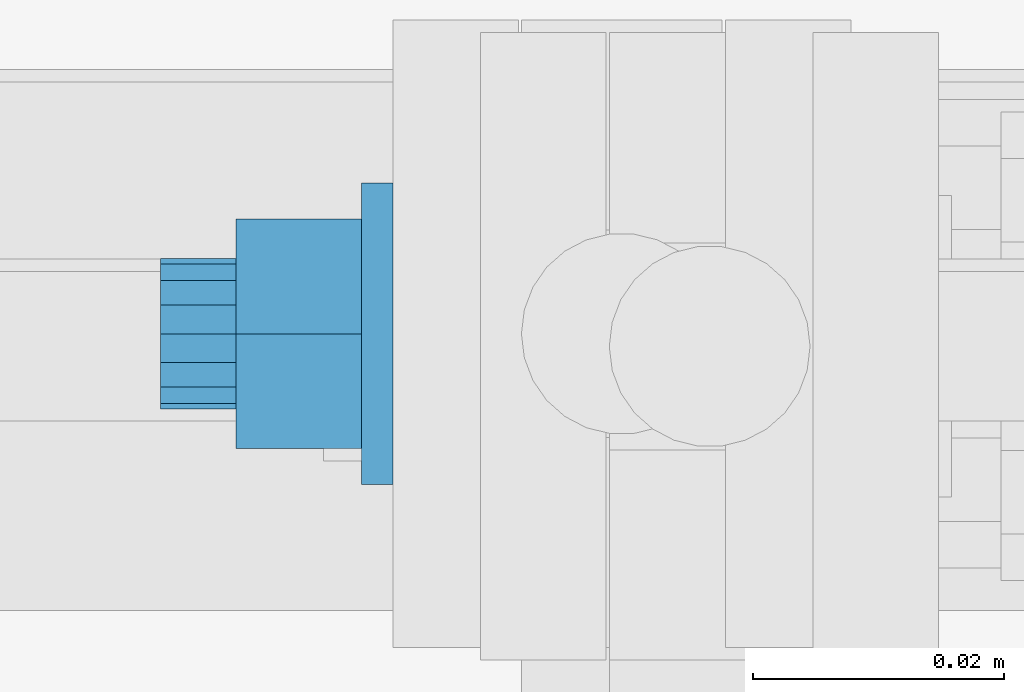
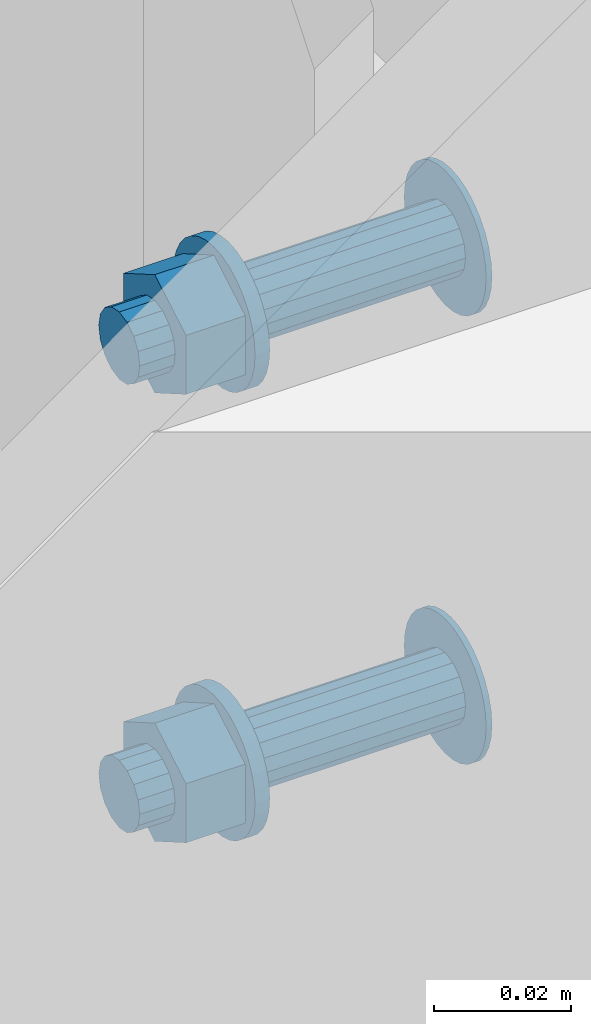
# One storey, part 49 of 98: 1 mechanical fastener.
"""IFC2X3 building model written with IfcOpenShell, lengths in millimetres."""

from ifc_helpers import new_model, entity, si_unit, converted_unit, origin_with_axes, place, context, project, spatial, faceted_brep, element, save


model = new_model("IFC2X3")

# Units and contexts
model_context = context("Model", 3, precision=1e-09, world=origin_with_axes())
ifc_project = project(units=[si_unit("LENGTHUNIT", "METRE", prefix="MILLI"), si_unit("AREAUNIT", "SQUARE_METRE"), si_unit("VOLUMEUNIT", "CUBIC_METRE"), converted_unit("PLANEANGLEUNIT", "DEGREE", entity("IfcPlaneAngleMeasure", 0.01745329), si_unit("PLANEANGLEUNIT", "RADIAN"), dimensions=[0, 0, 0, 0, 0, 0, 0])], contexts=[model_context])

# Site, building, storey
site_placement = place(None, origin_with_axes())
site = spatial("IfcSite", under=ifc_project, at=site_placement, Name="Maybachstra?e 2, 71563 Affalterbach", CompositionType="ELEMENT")
building_placement = place(site_placement, origin_with_axes())
building = spatial("IfcBuilding", under=site, at=building_placement, Name="Struktur 1", CompositionType="ELEMENT")
storey_placement = place(building_placement, origin_with_axes())
storey = spatial("IfcBuildingStorey", under=building, at=storey_placement, Name="Default Storey", CompositionType="ELEMENT", Elevation=0.0)

# Mechanical fastener
mechanical_fastener_placement = place(None, origin_with_axes())
element("IfcMechanicalFastener", 1, at=mechanical_fastener_placement, inside=storey, ObjectType="-", NominalDiameter=12.0, NominalLength=55.0, context=model_context, shape_type="Brep", body=[
    faceted_brep([(12156.279157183, -581.0, 2795.0), (12155.279157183, -581.0, 2795.0), (12155.279157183, -580.769423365, 2792.658916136), (12156.279157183, -580.769423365, 2792.658916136), (12155.279157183, -580.08655439, 2790.407798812), (12156.279157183, -580.08655439, 2790.407798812), (12155.279157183, -578.977635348, 2788.333157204), (12156.279157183, -578.977635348, 2788.333157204), (12155.279157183, -577.485281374, 2786.514718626), (12156.279157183, -577.485281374, 2786.514718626), (12155.279157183, -575.666842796, 2785.022364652), (12156.279157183, -575.666842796, 2785.022364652), (12155.279157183, -573.592201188, 2783.91344561), (12156.279157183, -573.592201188, 2783.91344561), (12155.279157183, -571.341083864, 2783.230576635), (12156.279157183, -571.341083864, 2783.230576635), (12155.279157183, -569.0, 2783.0), (12156.279157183, -569.0, 2783.0), (12155.279157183, -566.658916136, 2783.230576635), (12156.279157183, -566.658916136, 2783.230576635), (12155.279157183, -564.407798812, 2783.91344561), (12156.279157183, -564.407798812, 2783.91344561), (12155.279157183, -562.333157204, 2785.022364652), (12156.279157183, -562.333157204, 2785.022364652), (12155.279157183, -560.514718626, 2786.514718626), (12156.279157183, -560.514718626, 2786.514718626), (12155.279157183, -559.022364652, 2788.333157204), (12156.279157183, -559.022364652, 2788.333157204), (12155.279157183, -557.91344561, 2790.407798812), (12156.279157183, -557.91344561, 2790.407798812), (12155.279157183, -557.230576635, 2792.658916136), (12156.279157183, -557.230576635, 2792.658916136), (12155.279157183, -557.0, 2795.0), (12156.279157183, -557.0, 2795.0), (12155.279157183, -557.230576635, 2797.341083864), (12156.279157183, -557.230576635, 2797.341083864), (12155.279157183, -557.91344561, 2799.592201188), (12156.279157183, -557.91344561, 2799.592201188), (12155.279157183, -559.022364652, 2801.666842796), (12156.279157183, -559.022364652, 2801.666842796), (12155.279157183, -560.514718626, 2803.485281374), (12156.279157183, -560.514718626, 2803.485281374), (12155.279157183, -562.333157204, 2804.977635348), (12156.279157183, -562.333157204, 2804.977635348), (12155.279157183, -564.407798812, 2806.08655439), (12156.279157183, -564.407798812, 2806.08655439), (12155.279157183, -566.658916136, 2806.769423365), (12156.279157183, -566.658916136, 2806.769423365), (12155.279157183, -569.0, 2807.0), (12156.279157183, -569.0, 2807.0), (12155.279157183, -571.341083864, 2806.769423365), (12156.279157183, -571.341083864, 2806.769423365), (12155.279157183, -573.592201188, 2806.08655439), (12156.279157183, -573.592201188, 2806.08655439), (12155.279157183, -575.666842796, 2804.977635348), (12156.279157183, -575.666842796, 2804.977635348), (12155.279157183, -577.485281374, 2803.485281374), (12156.279157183, -577.485281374, 2803.485281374), (12155.279157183, -578.977635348, 2801.666842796), (12156.279157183, -578.977635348, 2801.666842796), (12155.279157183, -580.08655439, 2799.592201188), (12156.279157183, -580.08655439, 2799.592201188), (12155.279157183, -580.769423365, 2797.341083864), (12156.279157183, -580.769423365, 2797.341083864)], [[[0, 1, 2, 3]], [[3, 2, 4, 5]], [[5, 4, 6, 7]], [[7, 6, 8, 9]], [[9, 8, 10, 11]], [[11, 10, 12, 13]], [[13, 12, 14, 15]], [[15, 14, 16, 17]], [[17, 16, 18, 19]], [[19, 18, 20, 21]], [[21, 20, 22, 23]], [[23, 22, 24, 25]], [[25, 24, 26, 27]], [[27, 26, 28, 29]], [[29, 28, 30, 31]], [[31, 30, 32, 33]], [[33, 32, 34, 35]], [[35, 34, 36, 37]], [[37, 36, 38, 39]], [[39, 38, 40, 41]], [[41, 40, 42, 43]], [[43, 42, 44, 45]], [[45, 44, 46, 47]], [[47, 46, 48, 49]], [[49, 48, 50, 51]], [[51, 50, 52, 53]], [[53, 52, 54, 55]], [[55, 54, 56, 57]], [[57, 56, 58, 59]], [[59, 58, 60, 61]], [[61, 60, 62, 63]], [[63, 62, 1, 0]], [[0, 3, 5, 7, 9, 11, 13, 15, 17, 19, 21, 23, 25, 27, 29, 31, 33, 35, 37, 39, 41, 43, 45, 47, 49, 51, 53, 55, 57, 59, 61, 63]], [[1, 62, 60, 58, 56, 54, 52, 50, 48, 46, 44, 42, 40, 38, 36, 34, 32, 30, 28, 26, 24, 22, 20, 18, 16, 14, 12, 10, 8, 6, 4, 2]]]),
    faceted_brep([(12156.279157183, -581.0, 2715.0), (12155.279157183, -581.0, 2715.0), (12155.279157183, -580.769423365, 2712.658916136), (12156.279157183, -580.769423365, 2712.658916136), (12155.279157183, -580.08655439, 2710.407798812), (12156.279157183, -580.08655439, 2710.407798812), (12155.279157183, -578.977635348, 2708.333157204), (12156.279157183, -578.977635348, 2708.333157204), (12155.279157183, -577.485281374, 2706.514718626), (12156.279157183, -577.485281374, 2706.514718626), (12155.279157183, -575.666842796, 2705.022364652), (12156.279157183, -575.666842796, 2705.022364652), (12155.279157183, -573.592201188, 2703.91344561), (12156.279157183, -573.592201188, 2703.91344561), (12155.279157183, -571.341083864, 2703.230576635), (12156.279157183, -571.341083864, 2703.230576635), (12155.279157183, -569.0, 2703.0), (12156.279157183, -569.0, 2703.0), (12155.279157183, -566.658916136, 2703.230576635), (12156.279157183, -566.658916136, 2703.230576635), (12155.279157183, -564.407798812, 2703.91344561), (12156.279157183, -564.407798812, 2703.91344561), (12155.279157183, -562.333157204, 2705.022364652), (12156.279157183, -562.333157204, 2705.022364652), (12155.279157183, -560.514718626, 2706.514718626), (12156.279157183, -560.514718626, 2706.514718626), (12155.279157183, -559.022364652, 2708.333157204), (12156.279157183, -559.022364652, 2708.333157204), (12155.279157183, -557.91344561, 2710.407798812), (12156.279157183, -557.91344561, 2710.407798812), (12155.279157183, -557.230576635, 2712.658916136), (12156.279157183, -557.230576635, 2712.658916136), (12155.279157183, -557.0, 2715.0), (12156.279157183, -557.0, 2715.0), (12155.279157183, -557.230576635, 2717.341083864), (12156.279157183, -557.230576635, 2717.341083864), (12155.279157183, -557.91344561, 2719.592201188), (12156.279157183, -557.91344561, 2719.592201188), (12155.279157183, -559.022364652, 2721.666842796), (12156.279157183, -559.022364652, 2721.666842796), (12155.279157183, -560.514718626, 2723.485281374), (12156.279157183, -560.514718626, 2723.485281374), (12155.279157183, -562.333157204, 2724.977635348), (12156.279157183, -562.333157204, 2724.977635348), (12155.279157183, -564.407798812, 2726.08655439), (12156.279157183, -564.407798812, 2726.08655439), (12155.279157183, -566.658916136, 2726.769423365), (12156.279157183, -566.658916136, 2726.769423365), (12155.279157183, -569.0, 2727.0), (12156.279157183, -569.0, 2727.0), (12155.279157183, -571.341083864, 2726.769423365), (12156.279157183, -571.341083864, 2726.769423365), (12155.279157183, -573.592201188, 2726.08655439), (12156.279157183, -573.592201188, 2726.08655439), (12155.279157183, -575.666842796, 2724.977635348), (12156.279157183, -575.666842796, 2724.977635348), (12155.279157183, -577.485281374, 2723.485281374), (12156.279157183, -577.485281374, 2723.485281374), (12155.279157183, -578.977635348, 2721.666842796), (12156.279157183, -578.977635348, 2721.666842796), (12155.279157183, -580.08655439, 2719.592201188), (12156.279157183, -580.08655439, 2719.592201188), (12155.279157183, -580.769423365, 2717.341083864), (12156.279157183, -580.769423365, 2717.341083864)], [[[0, 1, 2, 3]], [[3, 2, 4, 5]], [[5, 4, 6, 7]], [[7, 6, 8, 9]], [[9, 8, 10, 11]], [[11, 10, 12, 13]], [[13, 12, 14, 15]], [[15, 14, 16, 17]], [[17, 16, 18, 19]], [[19, 18, 20, 21]], [[21, 20, 22, 23]], [[23, 22, 24, 25]], [[25, 24, 26, 27]], [[27, 26, 28, 29]], [[29, 28, 30, 31]], [[31, 30, 32, 33]], [[33, 32, 34, 35]], [[35, 34, 36, 37]], [[37, 36, 38, 39]], [[39, 38, 40, 41]], [[41, 40, 42, 43]], [[43, 42, 44, 45]], [[45, 44, 46, 47]], [[47, 46, 48, 49]], [[49, 48, 50, 51]], [[51, 50, 52, 53]], [[53, 52, 54, 55]], [[55, 54, 56, 57]], [[57, 56, 58, 59]], [[59, 58, 60, 61]], [[61, 60, 62, 63]], [[63, 62, 1, 0]], [[0, 3, 5, 7, 9, 11, 13, 15, 17, 19, 21, 23, 25, 27, 29, 31, 33, 35, 37, 39, 41, 43, 45, 47, 49, 51, 53, 55, 57, 59, 61, 63]], [[1, 62, 60, 58, 56, 54, 52, 50, 48, 46, 44, 42, 40, 38, 36, 34, 32, 30, 28, 26, 24, 22, 20, 18, 16, 14, 12, 10, 8, 6, 4, 2]]]),
    faceted_brep([(12155.279157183, -575.0, 2795.0), (12118.779157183, -575.0, 2795.0), (12118.779157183, -574.543277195, 2792.703899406), (12155.279157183, -574.543277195, 2792.703899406), (12118.779157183, -573.242640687, 2790.757359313), (12155.279157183, -573.242640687, 2790.757359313), (12118.779157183, -571.296100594, 2789.456722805), (12155.279157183, -571.296100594, 2789.456722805), (12118.779157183, -569.0, 2789.0), (12155.279157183, -569.0, 2789.0), (12118.779157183, -566.703899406, 2789.456722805), (12155.279157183, -566.703899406, 2789.456722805), (12118.779157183, -564.757359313, 2790.757359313), (12155.279157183, -564.757359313, 2790.757359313), (12118.779157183, -563.456722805, 2792.703899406), (12155.279157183, -563.456722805, 2792.703899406), (12118.779157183, -563.0, 2795.0), (12155.279157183, -563.0, 2795.0), (12118.779157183, -563.456722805, 2797.296100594), (12155.279157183, -563.456722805, 2797.296100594), (12118.779157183, -564.757359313, 2799.242640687), (12155.279157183, -564.757359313, 2799.242640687), (12118.779157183, -566.703899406, 2800.543277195), (12155.279157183, -566.703899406, 2800.543277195), (12118.779157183, -569.0, 2801.0), (12155.279157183, -569.0, 2801.0), (12118.779157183, -571.296100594, 2800.543277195), (12155.279157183, -571.296100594, 2800.543277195), (12118.779157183, -573.242640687, 2799.242640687), (12155.279157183, -573.242640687, 2799.242640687), (12118.779157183, -574.543277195, 2797.296100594), (12155.279157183, -574.543277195, 2797.296100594)], [[[0, 1, 2, 3]], [[3, 2, 4, 5]], [[5, 4, 6, 7]], [[7, 6, 8, 9]], [[9, 8, 10, 11]], [[11, 10, 12, 13]], [[13, 12, 14, 15]], [[15, 14, 16, 17]], [[17, 16, 18, 19]], [[19, 18, 20, 21]], [[21, 20, 22, 23]], [[23, 22, 24, 25]], [[25, 24, 26, 27]], [[27, 26, 28, 29]], [[29, 28, 30, 31]], [[31, 30, 1, 0]], [[0, 3, 5, 7, 9, 11, 13, 15, 17, 19, 21, 23, 25, 27, 29, 31]], [[1, 30, 28, 26, 24, 22, 20, 18, 16, 14, 12, 10, 8, 6, 4, 2]]]),
    faceted_brep([(12155.279157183, -575.0, 2715.0), (12118.779157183, -575.0, 2715.0), (12118.779157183, -574.543277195, 2712.703899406), (12155.279157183, -574.543277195, 2712.703899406), (12118.779157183, -573.242640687, 2710.757359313), (12155.279157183, -573.242640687, 2710.757359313), (12118.779157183, -571.296100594, 2709.456722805), (12155.279157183, -571.296100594, 2709.456722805), (12118.779157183, -569.0, 2709.0), (12155.279157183, -569.0, 2709.0), (12118.779157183, -566.703899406, 2709.456722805), (12155.279157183, -566.703899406, 2709.456722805), (12118.779157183, -564.757359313, 2710.757359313), (12155.279157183, -564.757359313, 2710.757359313), (12118.779157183, -563.456722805, 2712.703899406), (12155.279157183, -563.456722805, 2712.703899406), (12118.779157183, -563.0, 2715.0), (12155.279157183, -563.0, 2715.0), (12118.779157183, -563.456722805, 2717.296100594), (12155.279157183, -563.456722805, 2717.296100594), (12118.779157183, -564.757359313, 2719.242640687), (12155.279157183, -564.757359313, 2719.242640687), (12118.779157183, -566.703899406, 2720.543277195), (12155.279157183, -566.703899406, 2720.543277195), (12118.779157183, -569.0, 2721.0), (12155.279157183, -569.0, 2721.0), (12118.779157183, -571.296100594, 2720.543277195), (12155.279157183, -571.296100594, 2720.543277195), (12118.779157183, -573.242640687, 2719.242640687), (12155.279157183, -573.242640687, 2719.242640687), (12118.779157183, -574.543277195, 2717.296100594), (12155.279157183, -574.543277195, 2717.296100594)], [[[0, 1, 2, 3]], [[3, 2, 4, 5]], [[5, 4, 6, 7]], [[7, 6, 8, 9]], [[9, 8, 10, 11]], [[11, 10, 12, 13]], [[13, 12, 14, 15]], [[15, 14, 16, 17]], [[17, 16, 18, 19]], [[19, 18, 20, 21]], [[21, 20, 22, 23]], [[23, 22, 24, 25]], [[25, 24, 26, 27]], [[27, 26, 28, 29]], [[29, 28, 30, 31]], [[31, 30, 1, 0]], [[0, 3, 5, 7, 9, 11, 13, 15, 17, 19, 21, 23, 25, 27, 29, 31]], [[1, 30, 28, 26, 24, 22, 20, 18, 16, 14, 12, 10, 8, 6, 4, 2]]]),
    faceted_brep([(12118.779157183, -581.0, 2795.0), (12116.279157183, -581.0, 2795.0), (12116.279157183, -580.769423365, 2792.658916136), (12118.779157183, -580.769423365, 2792.658916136), (12116.279157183, -580.08655439, 2790.407798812), (12118.779157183, -580.08655439, 2790.407798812), (12116.279157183, -578.977635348, 2788.333157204), (12118.779157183, -578.977635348, 2788.333157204), (12116.279157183, -577.485281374, 2786.514718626), (12118.779157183, -577.485281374, 2786.514718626), (12116.279157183, -575.666842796, 2785.022364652), (12118.779157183, -575.666842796, 2785.022364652), (12116.279157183, -573.592201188, 2783.91344561), (12118.779157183, -573.592201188, 2783.91344561), (12116.279157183, -571.341083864, 2783.230576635), (12118.779157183, -571.341083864, 2783.230576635), (12116.279157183, -569.0, 2783.0), (12118.779157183, -569.0, 2783.0), (12116.279157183, -566.658916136, 2783.230576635), (12118.779157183, -566.658916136, 2783.230576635), (12116.279157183, -564.407798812, 2783.91344561), (12118.779157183, -564.407798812, 2783.91344561), (12116.279157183, -562.333157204, 2785.022364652), (12118.779157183, -562.333157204, 2785.022364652), (12116.279157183, -560.514718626, 2786.514718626), (12118.779157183, -560.514718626, 2786.514718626), (12116.279157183, -559.022364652, 2788.333157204), (12118.779157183, -559.022364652, 2788.333157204), (12116.279157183, -557.91344561, 2790.407798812), (12118.779157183, -557.91344561, 2790.407798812), (12116.279157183, -557.230576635, 2792.658916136), (12118.779157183, -557.230576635, 2792.658916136), (12116.279157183, -557.0, 2795.0), (12118.779157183, -557.0, 2795.0), (12116.279157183, -557.230576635, 2797.341083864), (12118.779157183, -557.230576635, 2797.341083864), (12116.279157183, -557.91344561, 2799.592201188), (12118.779157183, -557.91344561, 2799.592201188), (12116.279157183, -559.022364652, 2801.666842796), (12118.779157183, -559.022364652, 2801.666842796), (12116.279157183, -560.514718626, 2803.485281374), (12118.779157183, -560.514718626, 2803.485281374), (12116.279157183, -562.333157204, 2804.977635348), (12118.779157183, -562.333157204, 2804.977635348), (12116.279157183, -564.407798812, 2806.08655439), (12118.779157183, -564.407798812, 2806.08655439), (12116.279157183, -566.658916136, 2806.769423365), (12118.779157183, -566.658916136, 2806.769423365), (12116.279157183, -569.0, 2807.0), (12118.779157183, -569.0, 2807.0), (12116.279157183, -571.341083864, 2806.769423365), (12118.779157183, -571.341083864, 2806.769423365), (12116.279157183, -573.592201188, 2806.08655439), (12118.779157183, -573.592201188, 2806.08655439), (12116.279157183, -575.666842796, 2804.977635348), (12118.779157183, -575.666842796, 2804.977635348), (12116.279157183, -577.485281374, 2803.485281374), (12118.779157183, -577.485281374, 2803.485281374), (12116.279157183, -578.977635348, 2801.666842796), (12118.779157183, -578.977635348, 2801.666842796), (12116.279157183, -580.08655439, 2799.592201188), (12118.779157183, -580.08655439, 2799.592201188), (12116.279157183, -580.769423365, 2797.341083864), (12118.779157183, -580.769423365, 2797.341083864)], [[[0, 1, 2, 3]], [[3, 2, 4, 5]], [[5, 4, 6, 7]], [[7, 6, 8, 9]], [[9, 8, 10, 11]], [[11, 10, 12, 13]], [[13, 12, 14, 15]], [[15, 14, 16, 17]], [[17, 16, 18, 19]], [[19, 18, 20, 21]], [[21, 20, 22, 23]], [[23, 22, 24, 25]], [[25, 24, 26, 27]], [[27, 26, 28, 29]], [[29, 28, 30, 31]], [[31, 30, 32, 33]], [[33, 32, 34, 35]], [[35, 34, 36, 37]], [[37, 36, 38, 39]], [[39, 38, 40, 41]], [[41, 40, 42, 43]], [[43, 42, 44, 45]], [[45, 44, 46, 47]], [[47, 46, 48, 49]], [[49, 48, 50, 51]], [[51, 50, 52, 53]], [[53, 52, 54, 55]], [[55, 54, 56, 57]], [[57, 56, 58, 59]], [[59, 58, 60, 61]], [[61, 60, 62, 63]], [[63, 62, 1, 0]], [[0, 3, 5, 7, 9, 11, 13, 15, 17, 19, 21, 23, 25, 27, 29, 31, 33, 35, 37, 39, 41, 43, 45, 47, 49, 51, 53, 55, 57, 59, 61, 63]], [[1, 62, 60, 58, 56, 54, 52, 50, 48, 46, 44, 42, 40, 38, 36, 34, 32, 30, 28, 26, 24, 22, 20, 18, 16, 14, 12, 10, 8, 6, 4, 2]]]),
    faceted_brep([(12118.779157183, -581.0, 2715.0), (12116.279157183, -581.0, 2715.0), (12116.279157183, -580.769423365, 2712.658916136), (12118.779157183, -580.769423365, 2712.658916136), (12116.279157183, -580.08655439, 2710.407798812), (12118.779157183, -580.08655439, 2710.407798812), (12116.279157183, -578.977635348, 2708.333157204), (12118.779157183, -578.977635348, 2708.333157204), (12116.279157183, -577.485281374, 2706.514718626), (12118.779157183, -577.485281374, 2706.514718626), (12116.279157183, -575.666842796, 2705.022364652), (12118.779157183, -575.666842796, 2705.022364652), (12116.279157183, -573.592201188, 2703.91344561), (12118.779157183, -573.592201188, 2703.91344561), (12116.279157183, -571.341083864, 2703.230576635), (12118.779157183, -571.341083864, 2703.230576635), (12116.279157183, -569.0, 2703.0), (12118.779157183, -569.0, 2703.0), (12116.279157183, -566.658916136, 2703.230576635), (12118.779157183, -566.658916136, 2703.230576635), (12116.279157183, -564.407798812, 2703.91344561), (12118.779157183, -564.407798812, 2703.91344561), (12116.279157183, -562.333157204, 2705.022364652), (12118.779157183, -562.333157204, 2705.022364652), (12116.279157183, -560.514718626, 2706.514718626), (12118.779157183, -560.514718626, 2706.514718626), (12116.279157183, -559.022364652, 2708.333157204), (12118.779157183, -559.022364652, 2708.333157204), (12116.279157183, -557.91344561, 2710.407798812), (12118.779157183, -557.91344561, 2710.407798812), (12116.279157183, -557.230576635, 2712.658916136), (12118.779157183, -557.230576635, 2712.658916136), (12116.279157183, -557.0, 2715.0), (12118.779157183, -557.0, 2715.0), (12116.279157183, -557.230576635, 2717.341083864), (12118.779157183, -557.230576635, 2717.341083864), (12116.279157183, -557.91344561, 2719.592201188), (12118.779157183, -557.91344561, 2719.592201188), (12116.279157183, -559.022364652, 2721.666842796), (12118.779157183, -559.022364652, 2721.666842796), (12116.279157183, -560.514718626, 2723.485281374), (12118.779157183, -560.514718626, 2723.485281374), (12116.279157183, -562.333157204, 2724.977635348), (12118.779157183, -562.333157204, 2724.977635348), (12116.279157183, -564.407798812, 2726.08655439), (12118.779157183, -564.407798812, 2726.08655439), (12116.279157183, -566.658916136, 2726.769423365), (12118.779157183, -566.658916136, 2726.769423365), (12116.279157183, -569.0, 2727.0), (12118.779157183, -569.0, 2727.0), (12116.279157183, -571.341083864, 2726.769423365), (12118.779157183, -571.341083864, 2726.769423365), (12116.279157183, -573.592201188, 2726.08655439), (12118.779157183, -573.592201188, 2726.08655439), (12116.279157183, -575.666842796, 2724.977635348), (12118.779157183, -575.666842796, 2724.977635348), (12116.279157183, -577.485281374, 2723.485281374), (12118.779157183, -577.485281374, 2723.485281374), (12116.279157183, -578.977635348, 2721.666842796), (12118.779157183, -578.977635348, 2721.666842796), (12116.279157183, -580.08655439, 2719.592201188), (12118.779157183, -580.08655439, 2719.592201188), (12116.279157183, -580.769423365, 2717.341083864), (12118.779157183, -580.769423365, 2717.341083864)], [[[0, 1, 2, 3]], [[3, 2, 4, 5]], [[5, 4, 6, 7]], [[7, 6, 8, 9]], [[9, 8, 10, 11]], [[11, 10, 12, 13]], [[13, 12, 14, 15]], [[15, 14, 16, 17]], [[17, 16, 18, 19]], [[19, 18, 20, 21]], [[21, 20, 22, 23]], [[23, 22, 24, 25]], [[25, 24, 26, 27]], [[27, 26, 28, 29]], [[29, 28, 30, 31]], [[31, 30, 32, 33]], [[33, 32, 34, 35]], [[35, 34, 36, 37]], [[37, 36, 38, 39]], [[39, 38, 40, 41]], [[41, 40, 42, 43]], [[43, 42, 44, 45]], [[45, 44, 46, 47]], [[47, 46, 48, 49]], [[49, 48, 50, 51]], [[51, 50, 52, 53]], [[53, 52, 54, 55]], [[55, 54, 56, 57]], [[57, 56, 58, 59]], [[59, 58, 60, 61]], [[61, 60, 62, 63]], [[63, 62, 1, 0]], [[0, 3, 5, 7, 9, 11, 13, 15, 17, 19, 21, 23, 25, 27, 29, 31, 33, 35, 37, 39, 41, 43, 45, 47, 49, 51, 53, 55, 57, 59, 61, 63]], [[1, 62, 60, 58, 56, 54, 52, 50, 48, 46, 44, 42, 40, 38, 36, 34, 32, 30, 28, 26, 24, 22, 20, 18, 16, 14, 12, 10, 8, 6, 4, 2]]]),
    faceted_brep([(12106.279157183, -559.86343199, 2789.725), (12116.279157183, -559.86343199, 2789.725), (12116.279157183, -569.0, 2784.45), (12106.279157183, -569.0, 2784.45), (12116.279157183, -578.13656801, 2789.725), (12106.279157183, -578.13656801, 2789.725), (12116.279157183, -578.13656801, 2800.275), (12106.279157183, -578.13656801, 2800.275), (12116.279157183, -569.0, 2805.55), (12106.279157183, -569.0, 2805.55), (12116.279157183, -559.86343199, 2800.275), (12106.279157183, -559.86343199, 2800.275)], [[[0, 1, 2, 3]], [[3, 2, 4, 5]], [[5, 4, 6, 7]], [[7, 6, 8, 9]], [[9, 8, 10, 11]], [[11, 10, 1, 0]], [[4, 2, 1, 10, 8, 6]], [[0, 3, 5, 7, 9, 11]]]),
    faceted_brep([(12106.279157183, -559.86343199, 2709.725), (12116.279157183, -559.86343199, 2709.725), (12116.279157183, -569.0, 2704.45), (12106.279157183, -569.0, 2704.45), (12116.279157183, -578.13656801, 2709.725), (12106.279157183, -578.13656801, 2709.725), (12116.279157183, -578.13656801, 2720.275), (12106.279157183, -578.13656801, 2720.275), (12116.279157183, -569.0, 2725.55), (12106.279157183, -569.0, 2725.55), (12116.279157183, -559.86343199, 2720.275), (12106.279157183, -559.86343199, 2720.275)], [[[0, 1, 2, 3]], [[3, 2, 4, 5]], [[5, 4, 6, 7]], [[7, 6, 8, 9]], [[9, 8, 10, 11]], [[11, 10, 1, 0]], [[4, 2, 1, 10, 8, 6]], [[0, 3, 5, 7, 9, 11]]]),
    faceted_brep([(12106.279157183, -575.0, 2795.0), (12100.279157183, -575.0, 2795.0), (12100.279157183, -574.543277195, 2792.703899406), (12106.279157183, -574.543277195, 2792.703899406), (12100.279157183, -573.242640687, 2790.757359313), (12106.279157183, -573.242640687, 2790.757359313), (12100.279157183, -571.296100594, 2789.456722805), (12106.279157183, -571.296100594, 2789.456722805), (12100.279157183, -569.0, 2789.0), (12106.279157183, -569.0, 2789.0), (12100.279157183, -566.703899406, 2789.456722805), (12106.279157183, -566.703899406, 2789.456722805), (12100.279157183, -564.757359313, 2790.757359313), (12106.279157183, -564.757359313, 2790.757359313), (12100.279157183, -563.456722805, 2792.703899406), (12106.279157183, -563.456722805, 2792.703899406), (12100.279157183, -563.0, 2795.0), (12106.279157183, -563.0, 2795.0), (12100.279157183, -563.456722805, 2797.296100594), (12106.279157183, -563.456722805, 2797.296100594), (12100.279157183, -564.757359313, 2799.242640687), (12106.279157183, -564.757359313, 2799.242640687), (12100.279157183, -566.703899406, 2800.543277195), (12106.279157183, -566.703899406, 2800.543277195), (12100.279157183, -569.0, 2801.0), (12106.279157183, -569.0, 2801.0), (12100.279157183, -571.296100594, 2800.543277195), (12106.279157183, -571.296100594, 2800.543277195), (12100.279157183, -573.242640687, 2799.242640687), (12106.279157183, -573.242640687, 2799.242640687), (12100.279157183, -574.543277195, 2797.296100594), (12106.279157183, -574.543277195, 2797.296100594)], [[[0, 1, 2, 3]], [[3, 2, 4, 5]], [[5, 4, 6, 7]], [[7, 6, 8, 9]], [[9, 8, 10, 11]], [[11, 10, 12, 13]], [[13, 12, 14, 15]], [[15, 14, 16, 17]], [[17, 16, 18, 19]], [[19, 18, 20, 21]], [[21, 20, 22, 23]], [[23, 22, 24, 25]], [[25, 24, 26, 27]], [[27, 26, 28, 29]], [[29, 28, 30, 31]], [[31, 30, 1, 0]], [[0, 3, 5, 7, 9, 11, 13, 15, 17, 19, 21, 23, 25, 27, 29, 31]], [[1, 30, 28, 26, 24, 22, 20, 18, 16, 14, 12, 10, 8, 6, 4, 2]]]),
    faceted_brep([(12106.279157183, -575.0, 2715.0), (12100.279157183, -575.0, 2715.0), (12100.279157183, -574.543277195, 2712.703899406), (12106.279157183, -574.543277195, 2712.703899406), (12100.279157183, -573.242640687, 2710.757359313), (12106.279157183, -573.242640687, 2710.757359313), (12100.279157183, -571.296100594, 2709.456722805), (12106.279157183, -571.296100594, 2709.456722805), (12100.279157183, -569.0, 2709.0), (12106.279157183, -569.0, 2709.0), (12100.279157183, -566.703899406, 2709.456722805), (12106.279157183, -566.703899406, 2709.456722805), (12100.279157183, -564.757359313, 2710.757359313), (12106.279157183, -564.757359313, 2710.757359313), (12100.279157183, -563.456722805, 2712.703899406), (12106.279157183, -563.456722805, 2712.703899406), (12100.279157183, -563.0, 2715.0), (12106.279157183, -563.0, 2715.0), (12100.279157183, -563.456722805, 2717.296100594), (12106.279157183, -563.456722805, 2717.296100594), (12100.279157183, -564.757359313, 2719.242640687), (12106.279157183, -564.757359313, 2719.242640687), (12100.279157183, -566.703899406, 2720.543277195), (12106.279157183, -566.703899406, 2720.543277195), (12100.279157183, -569.0, 2721.0), (12106.279157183, -569.0, 2721.0), (12100.279157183, -571.296100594, 2720.543277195), (12106.279157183, -571.296100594, 2720.543277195), (12100.279157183, -573.242640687, 2719.242640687), (12106.279157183, -573.242640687, 2719.242640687), (12100.279157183, -574.543277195, 2717.296100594), (12106.279157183, -574.543277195, 2717.296100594)], [[[0, 1, 2, 3]], [[3, 2, 4, 5]], [[5, 4, 6, 7]], [[7, 6, 8, 9]], [[9, 8, 10, 11]], [[11, 10, 12, 13]], [[13, 12, 14, 15]], [[15, 14, 16, 17]], [[17, 16, 18, 19]], [[19, 18, 20, 21]], [[21, 20, 22, 23]], [[23, 22, 24, 25]], [[25, 24, 26, 27]], [[27, 26, 28, 29]], [[29, 28, 30, 31]], [[31, 30, 1, 0]], [[0, 3, 5, 7, 9, 11, 13, 15, 17, 19, 21, 23, 25, 27, 29, 31]], [[1, 30, 28, 26, 24, 22, 20, 18, 16, 14, 12, 10, 8, 6, 4, 2]]]),
])

save(model, "model.ifc")
